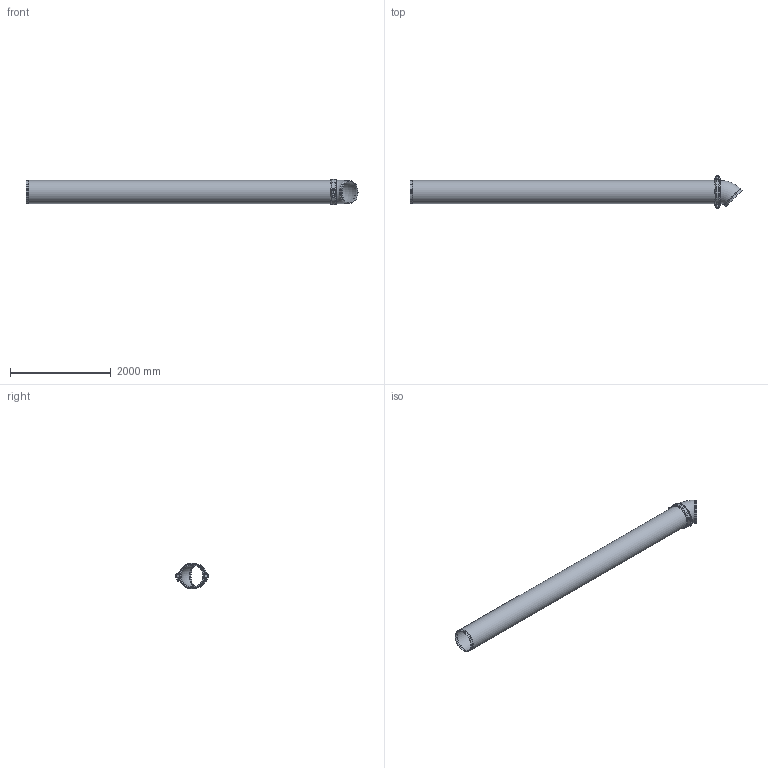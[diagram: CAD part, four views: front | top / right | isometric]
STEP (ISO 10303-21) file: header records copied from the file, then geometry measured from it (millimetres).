
FILE_DESCRIPTION(/* description */ ('VIC AGS LONG RUN FITTING No WR11 (AGS)','CAx-IF Rec.Pracs.---Representation and Presentation of Product Manufacturing Information (PMI)---4.0---2014-10-13'),/* implementation_level */ '2;1');
FILE_NAME(/* name */ 'C:\Users\Vjadhav\AppData\Roaming\Autodesk\ApplicationPlugins\Back Up\Victaulic_AGS_Long Run Fittings_No WR11 (AGS)\Victaulic_AGS_Long Run Fittings_No WR11 (AGS)_18 (450).stp',/* time_stamp */ '2020-10-14T15:37:34+05:00',/* author */ ('Vjadhav'),/* organization */ ('Victaulic'),/* preprocessor_version */ 'ST-DEVELOPER v17.2',/* originating_system */ 'Autodesk Inventor 2019',/* authorisation */ '');
FILE_SCHEMA (('AP242_MANAGED_MODEL_BASED_3D_ENGINEERING_MIM_LF { 1 0 10303 442 1 1 4 }'));
Length unit declared in the file: inch
Products named in the file (4): WR11-18.0; WR10-18.0; W07-18.0; W11-18.0
Assembly tree (3 placements, depth 2):
  WR11-18.0
    WR10-18.0
    W07-18.0
    W11-18.0
Bounding box: 6587.46 x 647.7 x 514.34 mm (x, y, z)
Volume: 94742254.9 mm3; surface area: 18794816.7 mm2
Topology: 3 solids, 5 shells, 119 faces, 334 edges, 237 vertices
Faces by surface type: plane 50, cylinder 41, torus 18, cone 8, sphere 2
Full cylindrical faces by diameter (mm): 25.4 x4, 42.85 x2, 423.672 x2, 431.8 x1, 438.15 x1, 444.5 x4, 457.2 x9
Entity records: 4646 total; most frequent: CARTESIAN_POINT 1081, DIRECTION 745, ORIENTED_EDGE 668, EDGE_CURVE 334, AXIS2_PLACEMENT_3D 301, VERTEX_POINT 237, CIRCLE 171, LINE 143
